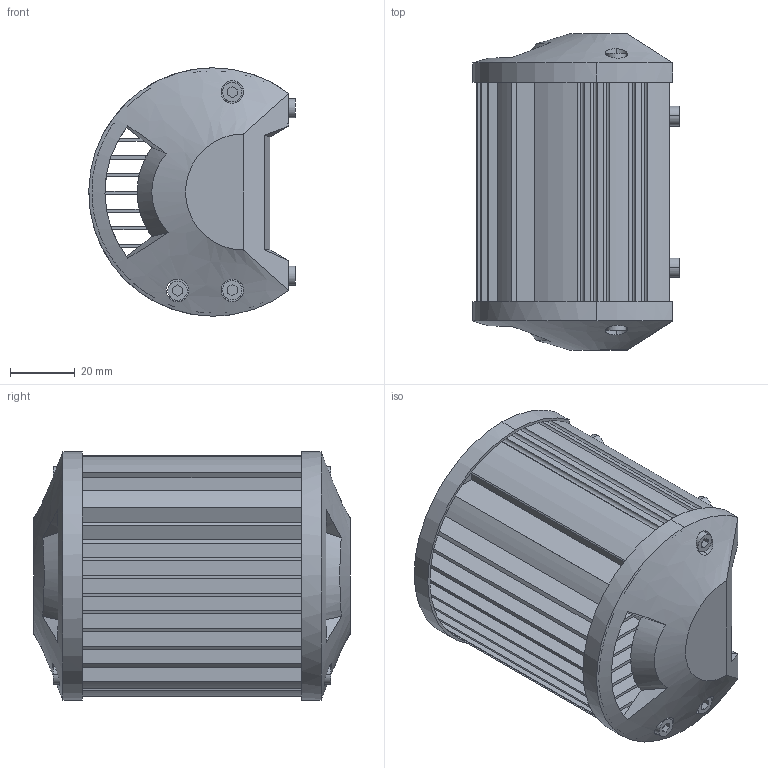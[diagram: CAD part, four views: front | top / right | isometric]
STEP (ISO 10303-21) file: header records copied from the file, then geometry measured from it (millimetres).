
FILE_DESCRIPTION (( 'STEP AP214' ), '1' );
FILE_NAME ('ST-S95W-T_D.STEP', '2021-01-20T16:54:55', ( '' ), ( '' ), 'SwSTEP 2.0', 'SolidWorks 2015', '' );
FILE_SCHEMA (( 'AUTOMOTIVE_DESIGN' ));
Length unit declared in the file: millimetre
Products named in the file (1): ST-S95W-T_D
Bounding box: 64 x 98 x 77 mm (x, y, z)
Volume: 186529.8 mm3; surface area: 78945.7 mm2
Topology: 1 solids, 1 shells, 388 faces, 1066 edges, 676 vertices
Faces by surface type: plane 245, cylinder 133, bspline 10
Entity records: 16507 total; most frequent: CARTESIAN_POINT 3444, ORIENTED_EDGE 2132, DIRECTION 1997, EDGE_CURVE 1066, VERTEX_POINT 676, AXIS2_PLACEMENT_3D 669, LINE 659, VECTOR 659
